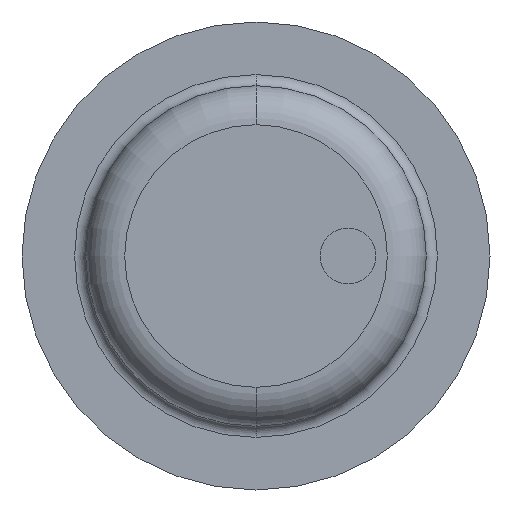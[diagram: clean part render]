
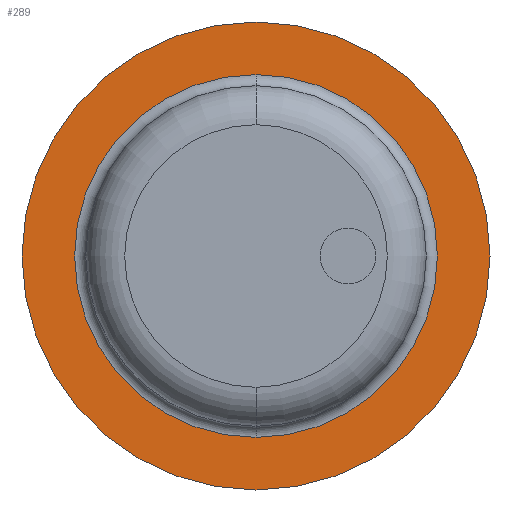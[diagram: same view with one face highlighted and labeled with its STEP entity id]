
A CAD part, front view. The second image highlights one B-rep face of the part: STEP entity #289.
In plain terms, the highlighted planar face has unit normal (0, -1, 0).
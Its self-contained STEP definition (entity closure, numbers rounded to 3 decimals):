
#289 = ADVANCED_FACE( '', ( #671, #672 ), #673, .T. );
#671 = FACE_OUTER_BOUND( '', #1070, .T. );
#672 = FACE_BOUND( '', #1071, .T. );
#673 = PLANE( '', #1072 );
#1070 = EDGE_LOOP( '', ( #2389, #2390 ) );
#1071 = EDGE_LOOP( '', ( #2391, #2392, #2393 ) );
#1072 = AXIS2_PLACEMENT_3D( '', #2394, #2395, #2396 );
#2389 = ORIENTED_EDGE( '', *, *, #2868, .F. );
#2390 = ORIENTED_EDGE( '', *, *, #2897, .F. );
#2391 = ORIENTED_EDGE( '', *, *, #2895, .T. );
#2392 = ORIENTED_EDGE( '', *, *, #2875, .T. );
#2393 = ORIENTED_EDGE( '', *, *, #2896, .T. );
#2394 = CARTESIAN_POINT( '', ( 139.563, -401.5, 0. ) );
#2395 = DIRECTION( '', ( 0., -1., 0. ) );
#2396 = DIRECTION( '', ( -1., 0., 0. ) );
#2868 = EDGE_CURVE( '', #3542, #3545, #3546, .T. );
#2875 = EDGE_CURVE( '', #3551, #3557, #3559, .T. );
#2895 = EDGE_CURVE( '', #3591, #3551, #3592, .T. );
#2896 = EDGE_CURVE( '', #3557, #3591, #3593, .T. );
#2897 = EDGE_CURVE( '', #3545, #3542, #3594, .T. );
#3542 = VERTEX_POINT( '', #4694 );
#3545 = VERTEX_POINT( '', #4698 );
#3546 = CIRCLE( '', #4699, 84. );
#3551 = VERTEX_POINT( '', #4705 );
#3557 = VERTEX_POINT( '', #4711 );
#3559 = CIRCLE( '', #4713, 65.125 );
#3591 = VERTEX_POINT( '', #4749 );
#3592 = CIRCLE( '', #4750, 65.125 );
#3593 = CIRCLE( '', #4751, 65.125 );
#3594 = CIRCLE( '', #4752, 84. );
#4694 = CARTESIAN_POINT( '', ( 149., -401.5, 0. ) );
#4698 = CARTESIAN_POINT( '', ( -19., -401.5, 0. ) );
#4699 = AXIS2_PLACEMENT_3D( '', #5626, #5627, #5628 );
#4705 = CARTESIAN_POINT( '', ( 65., -401.5, -65.125 ) );
#4711 = CARTESIAN_POINT( '', ( 65., -401.5, 65.125 ) );
#4713 = AXIS2_PLACEMENT_3D( '', #5645, #5646, #5647 );
#4749 = CARTESIAN_POINT( '', ( 130.125, -401.5, 0. ) );
#4750 = AXIS2_PLACEMENT_3D( '', #5697, #5698, #5699 );
#4751 = AXIS2_PLACEMENT_3D( '', #5700, #5701, #5702 );
#4752 = AXIS2_PLACEMENT_3D( '', #5703, #5704, #5705 );
#5626 = CARTESIAN_POINT( '', ( 65., -401.5, 0. ) );
#5627 = DIRECTION( '', ( 0., 1., 0. ) );
#5628 = DIRECTION( '', ( 1., 0., 0. ) );
#5645 = CARTESIAN_POINT( '', ( 65., -401.5, 0. ) );
#5646 = DIRECTION( '', ( 0., 1., 0. ) );
#5647 = DIRECTION( '', ( 1., 0., 0. ) );
#5697 = CARTESIAN_POINT( '', ( 65., -401.5, 0. ) );
#5698 = DIRECTION( '', ( 0., 1., 0. ) );
#5699 = DIRECTION( '', ( 1., 0., 0. ) );
#5700 = CARTESIAN_POINT( '', ( 65., -401.5, 0. ) );
#5701 = DIRECTION( '', ( 0., 1., 0. ) );
#5702 = DIRECTION( '', ( 1., 0., 0. ) );
#5703 = CARTESIAN_POINT( '', ( 65., -401.5, 0. ) );
#5704 = DIRECTION( '', ( 0., 1., 0. ) );
#5705 = DIRECTION( '', ( 1., 0., 0. ) );
